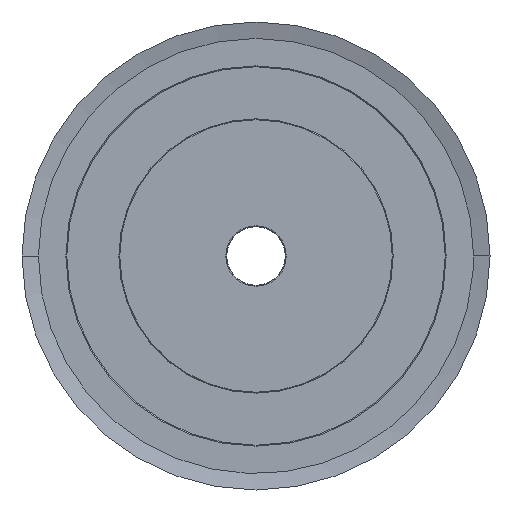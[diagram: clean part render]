
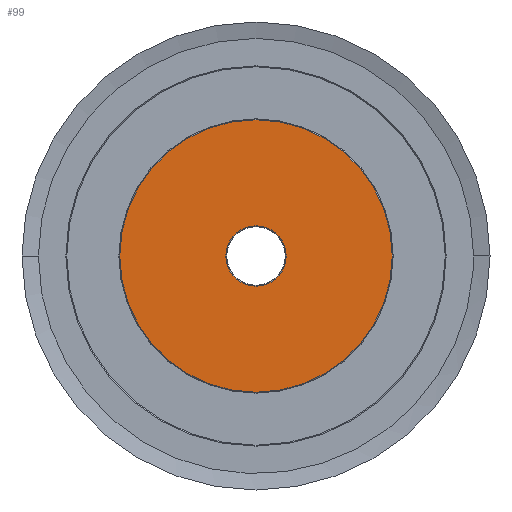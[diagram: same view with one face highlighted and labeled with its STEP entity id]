
A CAD part, left-side view. The second image highlights one B-rep face of the part: STEP entity #99.
In plain terms, the highlighted planar face has unit normal (-1, 0, 0).
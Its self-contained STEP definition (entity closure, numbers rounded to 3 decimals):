
#99=ADVANCED_FACE('',(#556,#557),#558,.T.);
#556=FACE_BOUND('',#1426,.T.);
#557=FACE_OUTER_BOUND('',#1427,.T.);
#558=PLANE('',#1428);
#1426=EDGE_LOOP('',(#2761,#2762));
#1427=EDGE_LOOP('',(#2763,#2764));
#1428=AXIS2_PLACEMENT_3D('',#2765,#2766,#2767);
#2761=ORIENTED_EDGE('',*,*,#6474,.T.);
#2762=ORIENTED_EDGE('',*,*,#6480,.T.);
#2763=ORIENTED_EDGE('',*,*,#6484,.T.);
#2764=ORIENTED_EDGE('',*,*,#6460,.T.);
#2765=CARTESIAN_POINT('',(0.0,0.0,0.0));
#2766=DIRECTION('',(-1.0,0.0,0.0));
#2767=DIRECTION('',(0.0,0.0,1.0));
#6460=EDGE_CURVE('',#8101,#8098,#8102,.T.);
#6474=EDGE_CURVE('',#8123,#8125,#8127,.T.);
#6480=EDGE_CURVE('',#8125,#8123,#8135,.T.);
#6484=EDGE_CURVE('',#8098,#8101,#8139,.T.);
#8098=VERTEX_POINT('',#12692);
#8101=VERTEX_POINT('',#12696);
#8102=CIRCLE('',#12697,74.5);
#8123=VERTEX_POINT('',#12723);
#8125=VERTEX_POINT('',#12726);
#8127=CIRCLE('',#12729,16.5);
#8135=CIRCLE('',#12739,16.5);
#8139=CIRCLE('',#12743,74.5);
#12692=CARTESIAN_POINT('',(0.0,74.5,0.0));
#12696=CARTESIAN_POINT('',(0.0,-74.5,0.));
#12697=AXIS2_PLACEMENT_3D('',#17226,#17227,#17228);
#12723=CARTESIAN_POINT('',(0.0,16.5,0.0));
#12726=CARTESIAN_POINT('',(0.0,-16.5,0.));
#12729=AXIS2_PLACEMENT_3D('',#17254,#17255,#17256);
#12739=AXIS2_PLACEMENT_3D('',#17268,#17269,#17270);
#12743=AXIS2_PLACEMENT_3D('',#17280,#17281,#17282);
#17226=CARTESIAN_POINT('',(0.0,0.0,0.));
#17227=DIRECTION('',(-1.0,0.0,0.0));
#17228=DIRECTION('',(0.0,1.0,0.0));
#17254=CARTESIAN_POINT('',(0.0,0.0,0.0));
#17255=DIRECTION('',(1.0,0.0,0.0));
#17256=DIRECTION('',(0.0,1.0,0.0));
#17268=CARTESIAN_POINT('',(0.0,0.0,0.0));
#17269=DIRECTION('',(1.0,0.0,0.0));
#17270=DIRECTION('',(0.0,1.0,0.0));
#17280=CARTESIAN_POINT('',(0.0,0.0,0.));
#17281=DIRECTION('',(-1.0,0.0,0.0));
#17282=DIRECTION('',(0.0,1.0,0.0));
